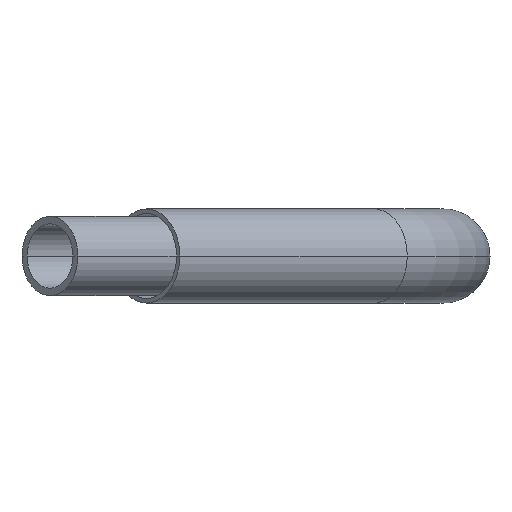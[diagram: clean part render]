
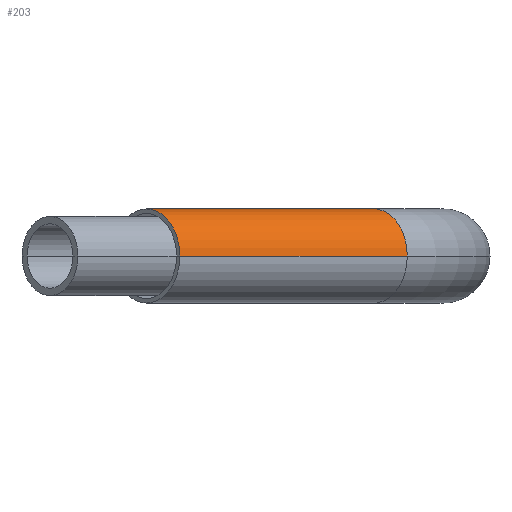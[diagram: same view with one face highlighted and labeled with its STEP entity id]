
A CAD part, left-side view. The second image highlights one B-rep face of the part: STEP entity #203.
In plain terms, the highlighted cylindrical face has radius 37.5 mm (diameter 75 mm), a partial arc.
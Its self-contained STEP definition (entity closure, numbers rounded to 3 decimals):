
#153 = VECTOR ( 'NONE', #705, 1000. ) ;
#184 = VECTOR ( 'NONE', #759, 1000. ) ;
#187 = AXIS2_PLACEMENT_3D ( 'NONE', #756, #757, #758 ) ;
#203 = ADVANCED_FACE ( 'NONE', ( #244 ), #247, .T. ) ;
#233 = DIRECTION ( 'NONE',  ( -0.707, 0.707, 0. ) ) ;
#244 = FACE_OUTER_BOUND ( 'NONE', #408, .T. ) ;
#245 = CARTESIAN_POINT ( 'NONE',  ( -95.446, -35.586, -1.832 ) ) ;
#247 = CYLINDRICAL_SURFACE ( 'NONE', #417, 37.5 ) ;
#248 = DIRECTION ( 'NONE',  ( -0.707, -0.707, 0. ) ) ;
#408 = EDGE_LOOP ( 'NONE', ( #610, #609, #608, #607 ) ) ;
#417 = AXIS2_PLACEMENT_3D ( 'NONE', #245, #233, #248 ) ;
#476 = CIRCLE ( 'NONE', #477, 37.5 ) ;
#477 = AXIS2_PLACEMENT_3D ( 'NONE', #761, #762, #763 ) ;
#530 = EDGE_CURVE ( 'NONE', #566, #555, #703, .T. ) ;
#555 = VERTEX_POINT ( 'NONE', #729 ) ;
#559 = VERTEX_POINT ( 'NONE', #733 ) ;
#565 = VERTEX_POINT ( 'NONE', #739 ) ;
#566 = VERTEX_POINT ( 'NONE', #740 ) ;
#607 = ORIENTED_EDGE ( 'NONE', *, *, #530, .F. ) ;
#608 = ORIENTED_EDGE ( 'NONE', *, *, #777, .T. ) ;
#609 = ORIENTED_EDGE ( 'NONE', *, *, #776, .T. ) ;
#610 = ORIENTED_EDGE ( 'NONE', *, *, #775, .F. ) ;
#703 = LINE ( 'NONE', #704, #153 ) ;
#704 = CARTESIAN_POINT ( 'NONE',  ( -121.963, -62.103, -1.832 ) ) ;
#705 = DIRECTION ( 'NONE',  ( -0.707, 0.707, 0. ) ) ;
#729 = CARTESIAN_POINT ( 'NONE',  ( -302.982, 118.917, -1.832 ) ) ;
#733 = CARTESIAN_POINT ( 'NONE',  ( -249.949, 171.95, -1.832 ) ) ;
#739 = CARTESIAN_POINT ( 'NONE',  ( -68.93, -9.07, -1.832 ) ) ;
#740 = CARTESIAN_POINT ( 'NONE',  ( -121.963, -62.103, -1.832 ) ) ;
#748 = LINE ( 'NONE', #749, #184 ) ;
#749 = CARTESIAN_POINT ( 'NONE',  ( -68.93, -9.07, -1.832 ) ) ;
#756 = CARTESIAN_POINT ( 'NONE',  ( -95.446, -35.586, -1.832 ) ) ;
#757 = DIRECTION ( 'NONE',  ( 0.707, -0.707, 0. ) ) ;
#758 = DIRECTION ( 'NONE',  ( 0., 0., -1. ) ) ;
#759 = DIRECTION ( 'NONE',  ( -0.707, 0.707, 0. ) ) ;
#761 = CARTESIAN_POINT ( 'NONE',  ( -276.466, 145.433, -1.832 ) ) ;
#762 = DIRECTION ( 'NONE',  ( 0.707, -0.707, 0. ) ) ;
#763 = DIRECTION ( 'NONE',  ( 0., 0., -1. ) ) ;
#775 = EDGE_CURVE ( 'NONE', #565, #566, #796, .T. ) ;
#776 = EDGE_CURVE ( 'NONE', #565, #559, #748, .T. ) ;
#777 = EDGE_CURVE ( 'NONE', #559, #555, #476, .T. ) ;
#796 = CIRCLE ( 'NONE', #187, 37.5 ) ;
